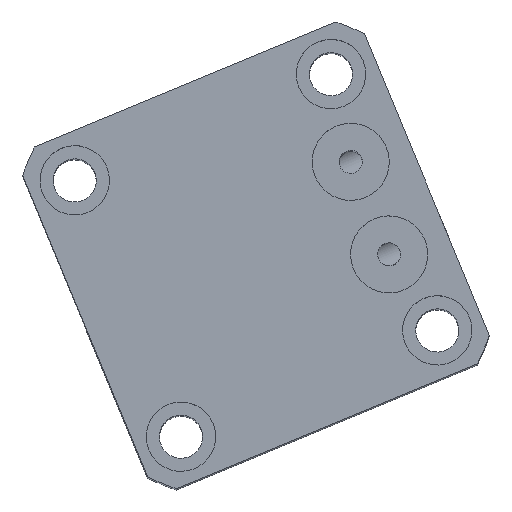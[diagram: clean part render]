
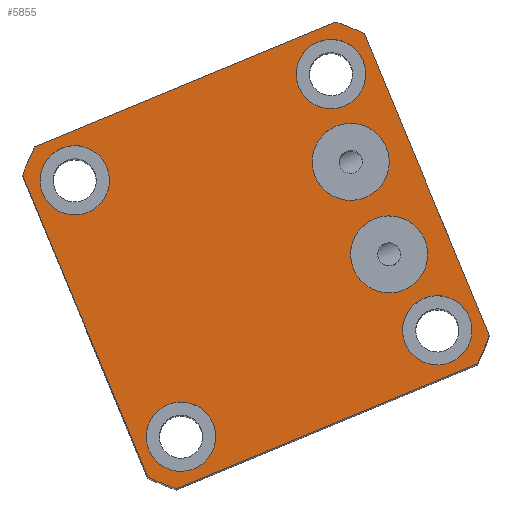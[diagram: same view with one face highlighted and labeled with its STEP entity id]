
A CAD part, top view. The second image highlights one B-rep face of the part: STEP entity #5855.
In plain terms, the highlighted planar face has unit normal (0, 0, 1).
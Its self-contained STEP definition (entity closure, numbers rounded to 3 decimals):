
#2890=PLANE('',#11712);
#3187=LINE('',#16159,#4051);
#3191=LINE('',#16519,#4055);
#3195=LINE('',#16528,#4059);
#3199=LINE('',#16537,#4063);
#4051=VECTOR('',#12165,1.);
#4055=VECTOR('',#12283,1.);
#4059=VECTOR('',#12289,1.);
#4063=VECTOR('',#12295,1.);
#5855=ADVANCED_FACE('',(#6411,#6412,#6413,#6414,#6415,#6416,#6417),#2890,
 .F.);
#6411=FACE_BOUND('',#6604,.T.);
#6412=FACE_BOUND('',#6605,.T.);
#6413=FACE_BOUND('',#6606,.T.);
#6414=FACE_BOUND('',#6607,.T.);
#6415=FACE_BOUND('',#6608,.T.);
#6416=FACE_BOUND('',#6609,.T.);
#6417=FACE_BOUND('',#6610,.T.);
#6604=EDGE_LOOP('',(#7268));
#6605=EDGE_LOOP('',(#7269));
#6606=EDGE_LOOP('',(#7270));
#6607=EDGE_LOOP('',(#7271));
#6608=EDGE_LOOP('',(#7272));
#6609=EDGE_LOOP('',(#7273));
#6610=EDGE_LOOP('',(#7274,#7275,#7276,#7277,#7278,#7279,#7280,#7281));
#7268=ORIENTED_EDGE('',*,*,#10366,.F.);
#7269=ORIENTED_EDGE('',*,*,#10368,.F.);
#7270=ORIENTED_EDGE('',*,*,#10378,.F.);
#7271=ORIENTED_EDGE('',*,*,#10380,.F.);
#7272=ORIENTED_EDGE('',*,*,#10382,.F.);
#7273=ORIENTED_EDGE('',*,*,#10384,.F.);
#7274=ORIENTED_EDGE('',*,*,#10418,.F.);
#7275=ORIENTED_EDGE('',*,*,#10403,.F.);
#7276=ORIENTED_EDGE('',*,*,#10419,.F.);
#7277=ORIENTED_EDGE('',*,*,#10411,.F.);
#7278=ORIENTED_EDGE('',*,*,#10420,.F.);
#7279=ORIENTED_EDGE('',*,*,#10407,.F.);
#7280=ORIENTED_EDGE('',*,*,#10421,.F.);
#7281=ORIENTED_EDGE('',*,*,#10359,.F.);
#9520=VERTEX_POINT('',#16157);
#9522=VERTEX_POINT('',#16160);
#9528=VERTEX_POINT('',#16308);
#9530=VERTEX_POINT('',#16313);
#9539=VERTEX_POINT('',#16457);
#9541=VERTEX_POINT('',#16462);
#9543=VERTEX_POINT('',#16467);
#9545=VERTEX_POINT('',#16472);
#9563=VERTEX_POINT('',#16517);
#9565=VERTEX_POINT('',#16520);
#9567=VERTEX_POINT('',#16526);
#9569=VERTEX_POINT('',#16529);
#9571=VERTEX_POINT('',#16535);
#9573=VERTEX_POINT('',#16538);
#10359=EDGE_CURVE('',#9520,#9522,#3187,.T.);
#10366=EDGE_CURVE('',#9528,#9528,#11524,.T.);
#10368=EDGE_CURVE('',#9530,#9530,#11526,.T.);
#10378=EDGE_CURVE('',#9539,#9539,#11534,.T.);
#10380=EDGE_CURVE('',#9541,#9541,#11536,.T.);
#10382=EDGE_CURVE('',#9543,#9543,#11538,.T.);
#10384=EDGE_CURVE('',#9545,#9545,#11540,.T.);
#10403=EDGE_CURVE('',#9563,#9565,#3191,.T.);
#10407=EDGE_CURVE('',#9567,#9569,#3195,.T.);
#10411=EDGE_CURVE('',#9571,#9573,#3199,.T.);
#10418=EDGE_CURVE('',#9565,#9520,#11562,.T.);
#10419=EDGE_CURVE('',#9573,#9563,#11563,.T.);
#10420=EDGE_CURVE('',#9569,#9571,#11564,.T.);
#10421=EDGE_CURVE('',#9522,#9567,#11565,.T.);
#11524=CIRCLE('',#11648,5.);
#11526=CIRCLE('',#11651,5.);
#11534=CIRCLE('',#11664,4.5);
#11536=CIRCLE('',#11667,4.5);
#11538=CIRCLE('',#11670,4.5);
#11540=CIRCLE('',#11673,4.5);
#11562=CIRCLE('',#11708,32.);
#11563=CIRCLE('',#11709,32.);
#11564=CIRCLE('',#11710,32.);
#11565=CIRCLE('',#11711,32.);
#11648=AXIS2_PLACEMENT_3D('',#16307,#12178,#12179);
#11651=AXIS2_PLACEMENT_3D('',#16312,#12184,#12185);
#11664=AXIS2_PLACEMENT_3D('',#16456,#12210,#12211);
#11667=AXIS2_PLACEMENT_3D('',#16461,#12216,#12217);
#11670=AXIS2_PLACEMENT_3D('',#16466,#12222,#12223);
#11673=AXIS2_PLACEMENT_3D('',#16471,#12228,#12229);
#11708=AXIS2_PLACEMENT_3D('',#16548,#12310,#12311);
#11709=AXIS2_PLACEMENT_3D('',#16549,#12312,#12313);
#11710=AXIS2_PLACEMENT_3D('',#16550,#12314,#12315);
#11711=AXIS2_PLACEMENT_3D('',#16551,#12316,#12317);
#11712=AXIS2_PLACEMENT_3D('',#16552,#12318,#12319);
#12165=DIRECTION('',(0.924,0.383,0.));
#12178=DIRECTION('',(0.,0.,1.));
#12179=DIRECTION('',(0.924,0.383,0.));
#12184=DIRECTION('',(0.,0.,1.));
#12185=DIRECTION('',(0.924,0.383,0.));
#12210=DIRECTION('',(0.,0.,1.));
#12211=DIRECTION('',(0.924,0.383,0.));
#12216=DIRECTION('',(0.,0.,1.));
#12217=DIRECTION('',(0.924,0.383,0.));
#12222=DIRECTION('',(0.,0.,1.));
#12223=DIRECTION('',(0.924,0.383,0.));
#12228=DIRECTION('',(0.,0.,1.));
#12229=DIRECTION('',(0.924,0.383,0.));
#12283=DIRECTION('',(-0.383,0.924,0.));
#12289=DIRECTION('',(0.383,-0.924,0.));
#12295=DIRECTION('',(-0.924,-0.383,0.));
#12310=DIRECTION('',(0.,0.,-1.));
#12311=DIRECTION('',(-0.924,-0.383,0.));
#12312=DIRECTION('',(0.,0.,-1.));
#12313=DIRECTION('',(-0.924,-0.383,0.));
#12314=DIRECTION('',(0.,0.,-1.));
#12315=DIRECTION('',(-0.924,-0.383,0.));
#12316=DIRECTION('',(0.,0.,-1.));
#12317=DIRECTION('',(-0.924,-0.383,0.));
#12318=DIRECTION('',(0.,0.,-1.));
#12319=DIRECTION('',(0.924,0.383,0.));
#16157=CARTESIAN_POINT('',(-1.544,17.545,84.891));
#16159=CARTESIAN_POINT('',(40.177,34.846,84.891));
#16160=CARTESIAN_POINT('',(37.559,33.761,84.891));
#16307=CARTESIAN_POINT('',(44.47,3.608,84.891));
#16308=CARTESIAN_POINT('',(49.089,5.523,84.891));
#16312=CARTESIAN_POINT('',(39.49,15.617,84.891));
#16313=CARTESIAN_POINT('',(44.109,17.532,84.891));
#16456=CARTESIAN_POINT('',(17.468,-20.038,84.891));
#16457=CARTESIAN_POINT('',(21.625,-18.315,84.891));
#16461=CARTESIAN_POINT('',(50.723,-6.249,84.891));
#16462=CARTESIAN_POINT('',(54.879,-4.525,84.891));
#16466=CARTESIAN_POINT('',(36.933,27.006,84.891));
#16467=CARTESIAN_POINT('',(41.09,28.729,84.891));
#16471=CARTESIAN_POINT('',(3.679,13.216,84.891));
#16472=CARTESIAN_POINT('',(7.835,14.94,84.891));
#16517=CARTESIAN_POINT('',(13.139,-25.261,84.891));
#16519=CARTESIAN_POINT('',(-4.162,16.46,84.891));
#16520=CARTESIAN_POINT('',(-3.077,13.842,84.891));
#16526=CARTESIAN_POINT('',(41.262,32.228,84.891));
#16528=CARTESIAN_POINT('',(40.177,34.846,84.891));
#16529=CARTESIAN_POINT('',(57.478,-6.875,84.891));
#16535=CARTESIAN_POINT('',(55.945,-10.578,84.891));
#16537=CARTESIAN_POINT('',(58.563,-9.493,84.891));
#16538=CARTESIAN_POINT('',(16.842,-26.794,84.891));
#16548=CARTESIAN_POINT('',(27.201,3.484,84.891));
#16549=CARTESIAN_POINT('',(27.201,3.484,84.891));
#16550=CARTESIAN_POINT('',(27.201,3.484,84.891));
#16551=CARTESIAN_POINT('',(27.201,3.484,84.891));
#16552=CARTESIAN_POINT('',(27.201,3.484,84.891));
